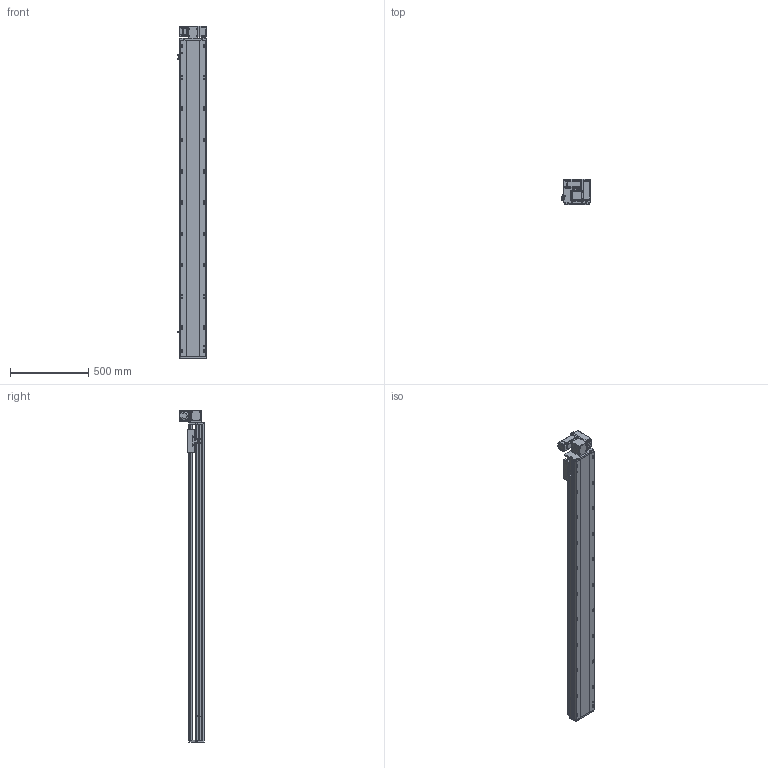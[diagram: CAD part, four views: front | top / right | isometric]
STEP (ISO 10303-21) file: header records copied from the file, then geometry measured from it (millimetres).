
FILE_DESCRIPTION (( 'STEP AP214' ), '1' );
FILE_NAME ('RTB17S-XX-1750-RW-M40-C4.STEP', '2025-12-11T09:06:06', ( '' ), ( '' ), 'SwSTEP 2.0', 'SolidWorks 2018', '' );
FILE_SCHEMA (( 'AUTOMOTIVE_DESIGN' ));
Length unit declared in the file: millimetre
Products named in the file (14): 400W侜督萇儂^RTB17S-XX-XX-RW-M40-C4; RTB17S-XX-1750-RW-M40-C4; RTB17S-L-001耜醱啣^RTB17S-XX-XX-RW-M40-C4; RTB14-L-017P^RTB17S-RW-々湍釱蚾饜-400W_RTB17S-XX-XX-RW-M40-C4; RTB14-L-008-M20--萇儂啣^RTB17S-RW-々湍釱蚾饜-400W_RTB17S-XX-XX-RW-M40-C4; OMRON EE-SX672 传感器^RTB17S-XX-XX-RW-M40-C4; RTB17S-L-004佪裝蹟譫蟀諉釱^RTB17S-XX-XX-RW-M40-C4; RTB17S-RW-々湍釱蚾饜-400W^RTB17S-XX-XX-RW-M40-C4; RMP17S-L-014-T20--々湍釱^RTB17S-RW-々湍釱蚾饜-400W_RTB17S-XX-XX-RW-M40-C4; RTB17S-L-007奻裔^RTB17S-XX-XX-RW-M40-C4; RTH13-BL-012覜茼え俋离^RTB17S-XX-XX-RW-M40-C4; RTB14-L-005P--轴承塑胶压盖^RTB17S-RW-皮带座装配-400W_RTB17S-XX-XX-RW-M40-C4; RTB17-R-011菁釱^RTB17S-XX-XX-RW-M40-C4; RTB14-L-018P^RTB17S-RW-々湍釱蚾饜-400W_RTB17S-XX-XX-RW-M40-C4
Assembly tree (16 placements, depth 3):
  RTB17S-XX-1750-RW-M40-C4
    RTB17-R-011菁釱^RTB17S-XX-XX-RW-M40-C4
    RTB17S-L-007奻裔^RTB17S-XX-XX-RW-M40-C4
    OMRON EE-SX672 传感器^RTB17S-XX-XX-RW-M40-C4  x3
    RTB17S-L-001耜醱啣^RTB17S-XX-XX-RW-M40-C4
    400W侜督萇儂^RTB17S-XX-XX-RW-M40-C4
    RTB17S-L-004佪裝蹟譫蟀諉釱^RTB17S-XX-XX-RW-M40-C4
    RTH13-BL-012覜茼え俋离^RTB17S-XX-XX-RW-M40-C4
    RTB17S-RW-々湍釱蚾饜-400W^RTB17S-XX-XX-RW-M40-C4
      RMP17S-L-014-T20--々湍釱^RTB17S-RW-々湍釱蚾饜-400W_RTB17S-XX-XX-RW-M40-C4
      RTB14-L-005P--轴承塑胶压盖^RTB17S-RW-皮带座装配-400W_RTB17S-XX-XX-RW-M40-C4
      RTB14-L-008-M20--萇儂啣^RTB17S-RW-々湍釱蚾饜-400W_RTB17S-XX-XX-RW-M40-C4
      RTB14-L-017P^RTB17S-RW-々湍釱蚾饜-400W_RTB17S-XX-XX-RW-M40-C4  x2
      RTB14-L-018P^RTB17S-RW-々湍釱蚾饜-400W_RTB17S-XX-XX-RW-M40-C4
Bounding box: 183.5 x 160.5 x 2122.5 mm (x, y, z)
Volume: 18490544.7 mm3; surface area: 2165033.4 mm2
Topology: 15 solids, 15 shells, 2269 faces, 6303 edges, 4113 vertices
Faces by surface type: plane 1076, cylinder 745, bspline 301, cone 139, torus 8
Entity records: 65705 total; most frequent: CARTESIAN_POINT 18508, ORIENTED_EDGE 9450, DIRECTION 8756, EDGE_CURVE 4725, VERTEX_POINT 3101, AXIS2_PLACEMENT_3D 3031, VECTOR 2694, LINE 2694
